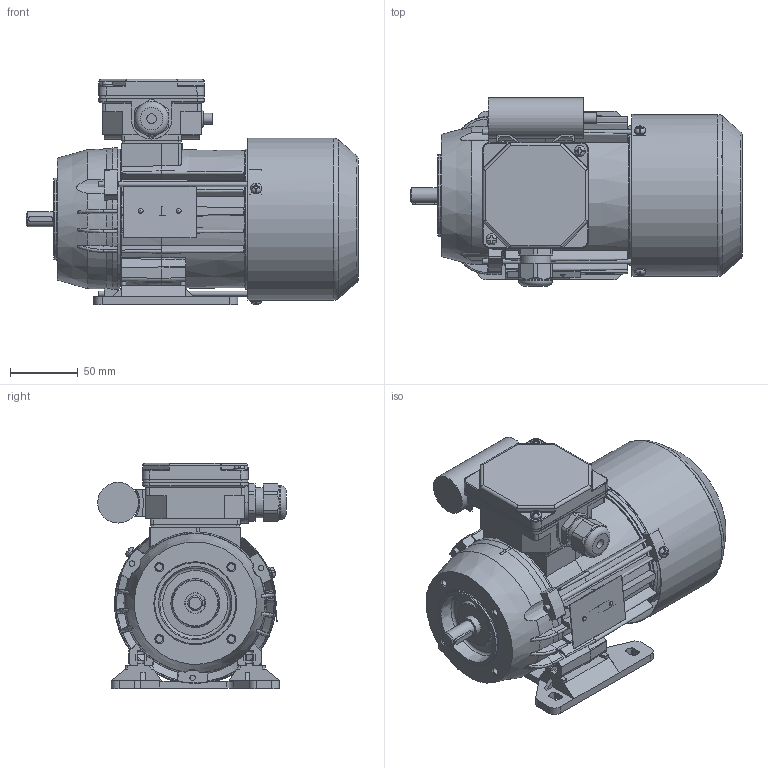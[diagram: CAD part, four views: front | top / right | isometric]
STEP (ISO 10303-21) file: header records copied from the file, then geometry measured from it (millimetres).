
FILE_DESCRIPTION(/* description */ ('Unknown'),/* implementation_level */ '2;1');
FILE_NAME(/* name */ '3SSIEL63-4B2',/* time_stamp */ '2024-06-17T11:11:08+02:00',/* author */ ('Unknown'),/* organization */ ('Unknown'),/* preprocessor_version */ 'ST-DEVELOPER v16.7',/* originating_system */ 'Solid Edge',/* authorisation */ 'Unknown');
FILE_SCHEMA (('AUTOMOTIVE_DESIGN {1 0 10303 214 3 1 1}'));
Length unit declared in the file: millimetre
Products named in the file (1): Czêœæ12
Bounding box: 244.47 x 138.82 x 166 mm (x, y, z)
Volume: 661929.8 mm3; surface area: 372717.4 mm2
Topology: 2 solids, 2 shells, 2158 faces, 6113 edges, 3939 vertices
Faces by surface type: plane 1059, cylinder 581, bspline 195, cone 158, torus 136, sphere 29
Full cylindrical faces by diameter (mm): 2 x1, 2.4 x2, 3 x1, 3.7 x7, 3.8 x1, 4 x8, 4.5 x5, 4.6 x1, 4.8 x2, 5 x10, 5.8 x4, 6.5 x1, 7 x4, 7.998 x1, 8 x6, 10.998 x1, 12.897 x1, 13.097 x1, 14.997 x2, 15.4 x2, 18.996 x2, 19.496 x1, 19.996 x1, 20.096 x1, 21.516 x4, 22.3 x1, 25 x1, 28 x2, 28.48 x4, 29.994 x1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
Entity records: 89216 total; most frequent: CARTESIAN_POINT 21075, ORIENTED_EDGE 11480, DIRECTION 10372, EDGE_CURVE 5740, AXIS2_PLACEMENT_3D 3829, VERTEX_POINT 3807, LINE 2714, VECTOR 2714
